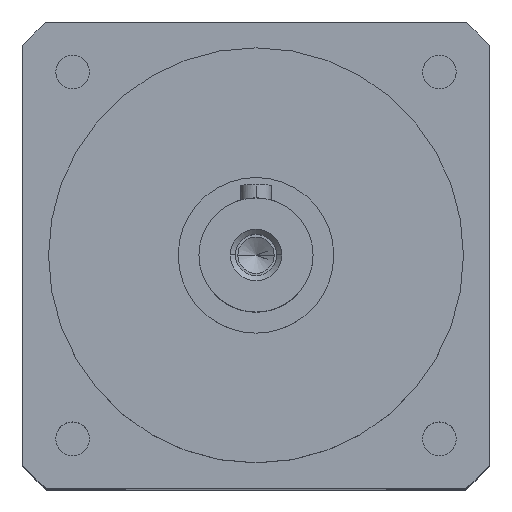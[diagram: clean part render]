
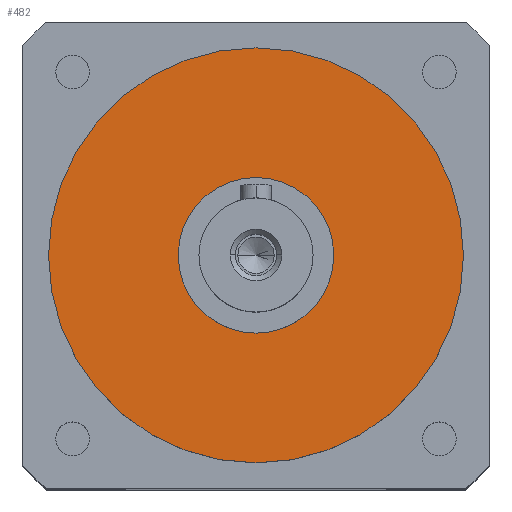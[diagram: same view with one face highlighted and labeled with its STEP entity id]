
A CAD part, top view. The second image highlights one B-rep face of the part: STEP entity #482.
In plain terms, the highlighted planar face has unit normal (0, 0, 1).
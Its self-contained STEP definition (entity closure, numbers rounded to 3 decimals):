
#40 = VERTEX_POINT ( 'NONE', #1307 ) ;
#85 = VERTEX_POINT ( 'NONE', #3081 ) ;
#309 = AXIS2_PLACEMENT_3D ( 'NONE', #1257, #1247, #1202 ) ;
#348 = CIRCLE ( 'NONE', #1095, 40. ) ;
#382 = DIRECTION ( 'NONE',  ( -1., 0., 0. ) ) ;
#482 = ADVANCED_FACE ( 'NONE', ( #3788, #3889 ), #3239, .F. ) ;
#584 = CARTESIAN_POINT ( 'NONE',  ( -15., 0., 10. ) ) ;
#725 = EDGE_CURVE ( 'NONE', #3177, #85, #348, .T. ) ;
#869 = ORIENTED_EDGE ( 'NONE', *, *, #725, .F. ) ;
#1088 = CARTESIAN_POINT ( 'NONE',  ( -40., 0., 10. ) ) ;
#1095 = AXIS2_PLACEMENT_3D ( 'NONE', #2374, #2367, #2361 ) ;
#1184 = VERTEX_POINT ( 'NONE', #584 ) ;
#1202 = DIRECTION ( 'NONE',  ( -1., 0., 0. ) ) ;
#1234 = DIRECTION ( 'NONE',  ( -1., 0., 0. ) ) ;
#1247 = DIRECTION ( 'NONE',  ( 0., 0., -1. ) ) ;
#1257 = CARTESIAN_POINT ( 'NONE',  ( 0., 0., 10. ) ) ;
#1307 = CARTESIAN_POINT ( 'NONE',  ( 15., 0., 10. ) ) ;
#1374 = DIRECTION ( 'NONE',  ( 0., 0., -1. ) ) ;
#1536 = ORIENTED_EDGE ( 'NONE', *, *, #2466, .T. ) ;
#1599 = CIRCLE ( 'NONE', #3143, 15. ) ;
#1746 = EDGE_LOOP ( 'NONE', ( #1536, #2349 ) ) ;
#1763 = CIRCLE ( 'NONE', #2886, 40. ) ;
#1820 = DIRECTION ( 'NONE',  ( 0., 0., -1. ) ) ;
#1854 = CARTESIAN_POINT ( 'NONE',  ( 0., 0., 10. ) ) ;
#1952 = AXIS2_PLACEMENT_3D ( 'NONE', #3214, #3161, #3152 ) ;
#2153 = EDGE_CURVE ( 'NONE', #85, #3177, #1763, .T. ) ;
#2349 = ORIENTED_EDGE ( 'NONE', *, *, #2674, .T. ) ;
#2361 = DIRECTION ( 'NONE',  ( -1., 0., 0. ) ) ;
#2367 = DIRECTION ( 'NONE',  ( 0., 0., -1. ) ) ;
#2374 = CARTESIAN_POINT ( 'NONE',  ( 0., 0., 10. ) ) ;
#2456 = CARTESIAN_POINT ( 'NONE',  ( 0., 0., 10. ) ) ;
#2466 = EDGE_CURVE ( 'NONE', #1184, #40, #3617, .T. ) ;
#2674 = EDGE_CURVE ( 'NONE', #40, #1184, #1599, .T. ) ;
#2859 = ORIENTED_EDGE ( 'NONE', *, *, #2153, .F. ) ;
#2886 = AXIS2_PLACEMENT_3D ( 'NONE', #1854, #1374, #1234 ) ;
#3081 = CARTESIAN_POINT ( 'NONE',  ( 40., 0., 10. ) ) ;
#3143 = AXIS2_PLACEMENT_3D ( 'NONE', #2456, #1820, #382 ) ;
#3152 = DIRECTION ( 'NONE',  ( -1., 0., 0. ) ) ;
#3161 = DIRECTION ( 'NONE',  ( 0., 0., -1. ) ) ;
#3177 = VERTEX_POINT ( 'NONE', #1088 ) ;
#3214 = CARTESIAN_POINT ( 'NONE',  ( 0., 0., 10. ) ) ;
#3239 = PLANE ( 'NONE',  #1952 ) ;
#3573 = EDGE_LOOP ( 'NONE', ( #869, #2859 ) ) ;
#3617 = CIRCLE ( 'NONE', #309, 15. ) ;
#3788 = FACE_BOUND ( 'NONE', #1746, .T. ) ;
#3889 = FACE_OUTER_BOUND ( 'NONE', #3573, .T. ) ;
